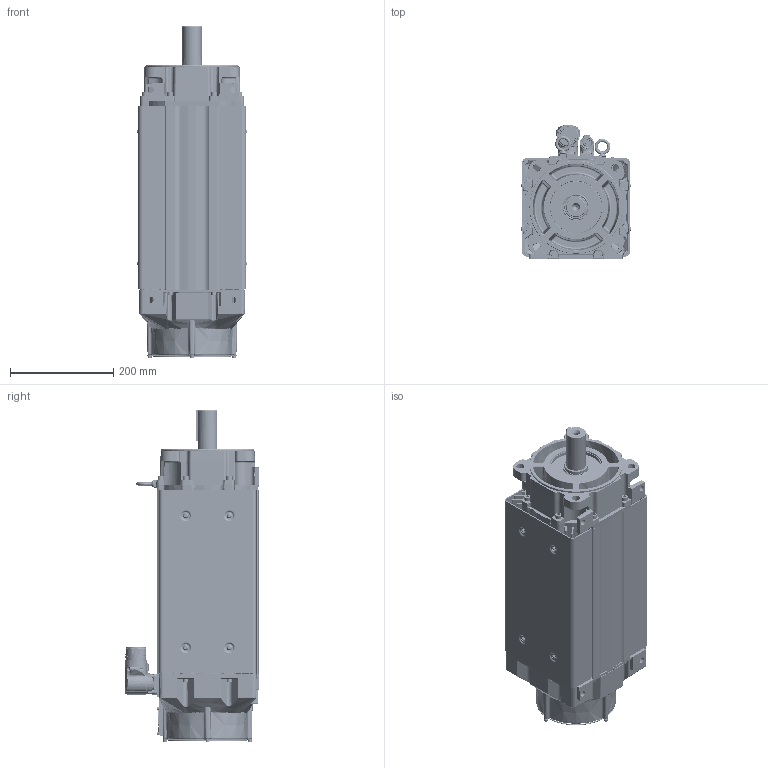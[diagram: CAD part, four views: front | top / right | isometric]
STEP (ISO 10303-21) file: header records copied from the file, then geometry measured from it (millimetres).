
FILE_DESCRIPTION((''),'2;1');
FILE_NAME('VPC-B2156D-SJ72FX_ASM','2016-09-27T',('SRGaddam'),('Rockwell Automation'),'PRO/ENGINEER BY PARAMETRIC TECHNOLOGY CORPORATION, 2012480','PRO/ENGINEER BY PARAMETRIC TECHNOLOGY CORPORATION, 2012480','');
FILE_SCHEMA(('CONFIG_CONTROL_DESIGN'));
Products named in the file (47): 10001238886_AF0; 10001298482_AF22; 10001284445_ASM; CH31X150; 10001371613; 10000569218; 10001416323; 10001587021; 10001257630_AF255; 10001300098_AF227; 10001284488_ASM; 10001289764; 10002069468; 10001935397; 10001713570; 10001713572_ASM; 91290A150BR; 10001289776; CH4X050; 10001587458; 91290A115; 10001336508; 10001409703; 10001299929; 10001284567; 10001518963; 91290A148BR; 10001587431; 91290A139BR; 10000231113; 10001289808_ASM; 10001609981; 0002-5005; 10001586886; 10001369859; 0011-2066; 142403; 125284; 142403-1_ASM; 221404-Q12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
Assembly tree (88 placements, depth 4):
  VPC-B2156D-SJ72FX_ASM
    10001284445_ASM
      10001238886_AF0
      10001298482_AF22
    CH31X150  x8
    10001371613
    10000569218
    10001416323  x2
    10001587021  x8
    10001284488_ASM
      10001257630_AF255
      10001300098_AF227
    10001289808_ASM
      10001289764
      10002069468
      10001713572_ASM
        10001935397
        10001713570
      91290A150BR  x4
      10001289776
      CH4X050  x2
      10001587458
      91290A115  x5
      10001336508
      10001409703
      10001299929
      10001284567
      10001518963
      91290A148BR  x8
      10001587431
      91290A139BR
      10000231113
    10001609981
    0002-5005  x2
    10001586886  x6
    10001369859
    0011-2066
    M940_ASM
      142403-1_ASM
        142403
        125284
      221404-Q12  x4
    M623_ASM
      142414-1_623_ASM
        142414_623
        135798_623
      10000172464  x4
Bounding box: 210.91 x 260.15 x 641.61 mm (x, y, z)
Volume: 6214262.8 mm3; surface area: 1983871.2 mm2
Topology: 89 solids, 89 shells, 7424 faces, 17818 edges, 10875 vertices
Faces by surface type: plane 2179, cylinder 1993, bspline 1408, cone 977, torus 688, sphere 143, revolution 30, extrusion 6
Entity records: 252088 total; most frequent: CARTESIAN_POINT 116361, ORIENTED_EDGE 29464, DIRECTION 26318, EDGE_CURVE 14732, AXIS2_PLACEMENT_3D 10381, VERTEX_POINT 9114, EDGE_LOOP 6614, FACE_OUTER_BOUND 6065
